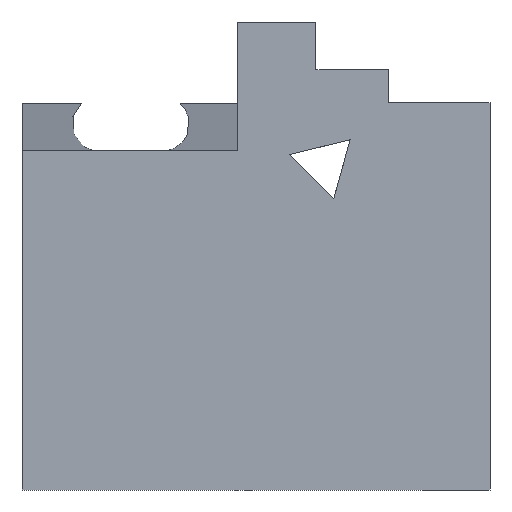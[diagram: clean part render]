
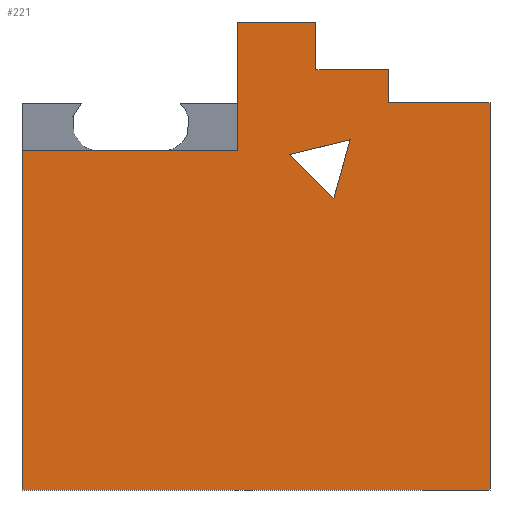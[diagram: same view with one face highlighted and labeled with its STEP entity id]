
A CAD part, front view. The second image highlights one B-rep face of the part: STEP entity #221.
In plain terms, the highlighted planar face has unit normal (0, -1, 0).
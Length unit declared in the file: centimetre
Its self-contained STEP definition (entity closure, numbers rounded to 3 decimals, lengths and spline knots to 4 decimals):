
#23 = ORIENTED_EDGE ( 'NONE', *, *, #1258, .T. ) ;
#33 = VERTEX_POINT ( 'NONE', #930 ) ;
#51 = LINE ( 'NONE', #436, #1282 ) ;
#56 = VECTOR ( 'NONE', #370, 100. ) ;
#64 = DIRECTION ( 'NONE',  ( -1., 0., 0. ) ) ;
#75 = ORIENTED_EDGE ( 'NONE', *, *, #457, .T. ) ;
#89 = CARTESIAN_POINT ( 'NONE',  ( 461.4134, 0., 724.5748 ) ) ;
#100 = CARTESIAN_POINT ( 'NONE',  ( 783.0842, 0., 898.315 ) ) ;
#101 = VECTOR ( 'NONE', #281, 100. ) ;
#109 = CARTESIAN_POINT ( 'NONE',  ( 783.0842, 0., 827.1668 ) ) ;
#123 = CARTESIAN_POINT ( 'NONE',  ( 701.2883, 0., 748.5227 ) ) ;
#135 = LINE ( 'NONE', #654, #952 ) ;
#149 = CARTESIAN_POINT ( 'NONE',  ( 0., 0., 0. ) ) ;
#165 = ORIENTED_EDGE ( 'NONE', *, *, #1029, .T. ) ;
#170 = VERTEX_POINT ( 'NONE', #1210 ) ;
#177 = ORIENTED_EDGE ( 'NONE', *, *, #1058, .F. ) ;
#199 = DIRECTION ( 'NONE',  ( -0.707, 0., 0.707 ) ) ;
#204 = EDGE_CURVE ( 'NONE', #754, #995, #135, .T. ) ;
#206 = CARTESIAN_POINT ( 'NONE',  ( 301.1799, 0., 724.5748 ) ) ;
#207 = VECTOR ( 'NONE', #1082, 100. ) ;
#218 = CARTESIAN_POINT ( 'NONE',  ( 628.1721, 0., 1000. ) ) ;
#221 = ADVANCED_FACE ( 'NONE', ( #859, #745 ), #1266, .F. ) ;
#231 = CARTESIAN_POINT ( 'NONE',  ( 1000., 0., 1000. ) ) ;
#238 = DIRECTION ( 'NONE',  ( 1., 0., 0. ) ) ;
#250 = DIRECTION ( 'NONE',  ( 1., 0., 0. ) ) ;
#263 = CARTESIAN_POINT ( 'NONE',  ( 461.4134, 0., 724.5748 ) ) ;
#264 = ORIENTED_EDGE ( 'NONE', *, *, #204, .T. ) ;
#277 = VECTOR ( 'NONE', #199, 100. ) ;
#281 = DIRECTION ( 'NONE',  ( 1., 0., 0. ) ) ;
#301 = CARTESIAN_POINT ( 'NONE',  ( 571.9287, 0., 716.6927 ) ) ;
#307 = ORIENTED_EDGE ( 'NONE', *, *, #1122, .T. ) ;
#321 = VECTOR ( 'NONE', #730, 100. ) ;
#322 = VERTEX_POINT ( 'NONE', #89 ) ;
#338 = VECTOR ( 'NONE', #401, 100. ) ;
#341 = LINE ( 'NONE', #1062, #507 ) ;
#357 = CARTESIAN_POINT ( 'NONE',  ( 0., 0., 1000. ) ) ;
#359 = VERTEX_POINT ( 'NONE', #1095 ) ;
#370 = DIRECTION ( 'NONE',  ( 0.971, 0., 0.239 ) ) ;
#401 = DIRECTION ( 'NONE',  ( 0., 0., 1. ) ) ;
#406 = DIRECTION ( 'NONE',  ( 1., 0., 0. ) ) ;
#417 = CARTESIAN_POINT ( 'NONE',  ( 628.1721, 0., 898.315 ) ) ;
#436 = CARTESIAN_POINT ( 'NONE',  ( 461.4134, 0., 724.5748 ) ) ;
#448 = EDGE_CURVE ( 'NONE', #1111, #600, #1320, .T. ) ;
#449 = ORIENTED_EDGE ( 'NONE', *, *, #448, .T. ) ;
#456 = DIRECTION ( 'NONE',  ( -1., 0., 0. ) ) ;
#457 = EDGE_CURVE ( 'NONE', #995, #570, #703, .T. ) ;
#470 = CARTESIAN_POINT ( 'NONE',  ( 0., 0., 724.5748 ) ) ;
#474 = CARTESIAN_POINT ( 'NONE',  ( 0., 0., 1000. ) ) ;
#475 = ORIENTED_EDGE ( 'NONE', *, *, #497, .T. ) ;
#481 = ORIENTED_EDGE ( 'NONE', *, *, #1145, .T. ) ;
#485 = VERTEX_POINT ( 'NONE', #206 ) ;
#490 = CARTESIAN_POINT ( 'NONE',  ( 701.2883, 0., 748.5227 ) ) ;
#494 = VERTEX_POINT ( 'NONE', #100 ) ;
#497 = EDGE_CURVE ( 'NONE', #1163, #494, #1314, .T. ) ;
#507 = VECTOR ( 'NONE', #238, 100. ) ;
#529 = VECTOR ( 'NONE', #829, 100. ) ;
#545 = CARTESIAN_POINT ( 'NONE',  ( 163.7232, 0., 724.5748 ) ) ;
#570 = VERTEX_POINT ( 'NONE', #891 ) ;
#595 = CARTESIAN_POINT ( 'NONE',  ( 0., 0., 0. ) ) ;
#600 = VERTEX_POINT ( 'NONE', #1203 ) ;
#640 = DIRECTION ( 'NONE',  ( -0.269, 0., -0.963 ) ) ;
#643 = CARTESIAN_POINT ( 'NONE',  ( 163.7232, 0., 724.5748 ) ) ;
#654 = CARTESIAN_POINT ( 'NONE',  ( 666.1083, 0., 622.5131 ) ) ;
#656 = VERTEX_POINT ( 'NONE', #218 ) ;
#665 = VECTOR ( 'NONE', #250, 100. ) ;
#669 = EDGE_CURVE ( 'NONE', #170, #600, #1138, .T. ) ;
#678 = CARTESIAN_POINT ( 'NONE',  ( 461.4134, 0., 724.5748 ) ) ;
#685 = EDGE_CURVE ( 'NONE', #359, #494, #1120, .T. ) ;
#687 = EDGE_CURVE ( 'NONE', #656, #359, #706, .T. ) ;
#703 = LINE ( 'NONE', #301, #277 ) ;
#706 = LINE ( 'NONE', #417, #529 ) ;
#711 = CARTESIAN_POINT ( 'NONE',  ( 628.1721, 0., 898.315 ) ) ;
#718 = DIRECTION ( 'NONE',  ( 0., 0., -1. ) ) ;
#730 = DIRECTION ( 'NONE',  ( 1., 0., 0. ) ) ;
#735 = DIRECTION ( 'NONE',  ( 0., 0., 1. ) ) ;
#745 = FACE_OUTER_BOUND ( 'NONE', #1002, .T. ) ;
#754 = VERTEX_POINT ( 'NONE', #123 ) ;
#771 = LINE ( 'NONE', #678, #1244 ) ;
#788 = CARTESIAN_POINT ( 'NONE',  ( 0., 0., 1000. ) ) ;
#824 = VECTOR ( 'NONE', #406, 100. ) ;
#829 = DIRECTION ( 'NONE',  ( 0., 0., -1. ) ) ;
#844 = CARTESIAN_POINT ( 'NONE',  ( 783.0842, 0., 827.1668 ) ) ;
#849 = EDGE_CURVE ( 'NONE', #1163, #170, #341, .T. ) ;
#859 = FACE_BOUND ( 'NONE', #899, .T. ) ;
#863 = AXIS2_PLACEMENT_3D ( 'NONE', #357, #1048, #735 ) ;
#888 = VECTOR ( 'NONE', #718, 100. ) ;
#891 = CARTESIAN_POINT ( 'NONE',  ( 571.9287, 0., 716.6927 ) ) ;
#898 = DIRECTION ( 'NONE',  ( 0., 0., 1. ) ) ;
#899 = EDGE_LOOP ( 'NONE', ( #75, #23, #264 ) ) ;
#915 = ORIENTED_EDGE ( 'NONE', *, *, #669, .F. ) ;
#930 = CARTESIAN_POINT ( 'NONE',  ( 461.4134, 0., 1000. ) ) ;
#946 = LINE ( 'NONE', #263, #1053 ) ;
#952 = VECTOR ( 'NONE', #640, 100. ) ;
#995 = VERTEX_POINT ( 'NONE', #1188 ) ;
#1002 = EDGE_LOOP ( 'NONE', ( #177, #307, #165, #449, #915, #1105, #475, #1125, #1180, #1220, #1089, #481 ) ) ;
#1029 = EDGE_CURVE ( 'NONE', #1251, #1111, #1074, .T. ) ;
#1048 = DIRECTION ( 'NONE',  ( 0., 1., 0. ) ) ;
#1053 = VECTOR ( 'NONE', #456, 100. ) ;
#1058 = EDGE_CURVE ( 'NONE', #1059, #485, #1172, .T. ) ;
#1059 = VERTEX_POINT ( 'NONE', #545 ) ;
#1062 = CARTESIAN_POINT ( 'NONE',  ( 783.0842, 0., 827.1668 ) ) ;
#1074 = LINE ( 'NONE', #474, #207 ) ;
#1082 = DIRECTION ( 'NONE',  ( 0., 0., -1. ) ) ;
#1089 = ORIENTED_EDGE ( 'NONE', *, *, #1264, .F. ) ;
#1095 = CARTESIAN_POINT ( 'NONE',  ( 628.1721, 0., 898.315 ) ) ;
#1105 = ORIENTED_EDGE ( 'NONE', *, *, #849, .F. ) ;
#1111 = VERTEX_POINT ( 'NONE', #149 ) ;
#1120 = LINE ( 'NONE', #711, #321 ) ;
#1122 = EDGE_CURVE ( 'NONE', #1059, #1251, #946, .T. ) ;
#1125 = ORIENTED_EDGE ( 'NONE', *, *, #685, .F. ) ;
#1138 = LINE ( 'NONE', #231, #888 ) ;
#1145 = EDGE_CURVE ( 'NONE', #322, #485, #51, .T. ) ;
#1163 = VERTEX_POINT ( 'NONE', #844 ) ;
#1172 = LINE ( 'NONE', #643, #665 ) ;
#1180 = ORIENTED_EDGE ( 'NONE', *, *, #687, .F. ) ;
#1183 = LINE ( 'NONE', #490, #56 ) ;
#1188 = CARTESIAN_POINT ( 'NONE',  ( 666.1083, 0., 622.5131 ) ) ;
#1191 = LINE ( 'NONE', #788, #101 ) ;
#1203 = CARTESIAN_POINT ( 'NONE',  ( 1000., 0., 0. ) ) ;
#1210 = CARTESIAN_POINT ( 'NONE',  ( 1000., 0., 827.1668 ) ) ;
#1215 = EDGE_CURVE ( 'NONE', #33, #656, #1191, .T. ) ;
#1220 = ORIENTED_EDGE ( 'NONE', *, *, #1215, .F. ) ;
#1244 = VECTOR ( 'NONE', #898, 100. ) ;
#1251 = VERTEX_POINT ( 'NONE', #470 ) ;
#1258 = EDGE_CURVE ( 'NONE', #570, #754, #1183, .T. ) ;
#1264 = EDGE_CURVE ( 'NONE', #322, #33, #771, .T. ) ;
#1266 = PLANE ( 'NONE',  #863 ) ;
#1282 = VECTOR ( 'NONE', #64, 100. ) ;
#1314 = LINE ( 'NONE', #109, #338 ) ;
#1320 = LINE ( 'NONE', #595, #824 ) ;
